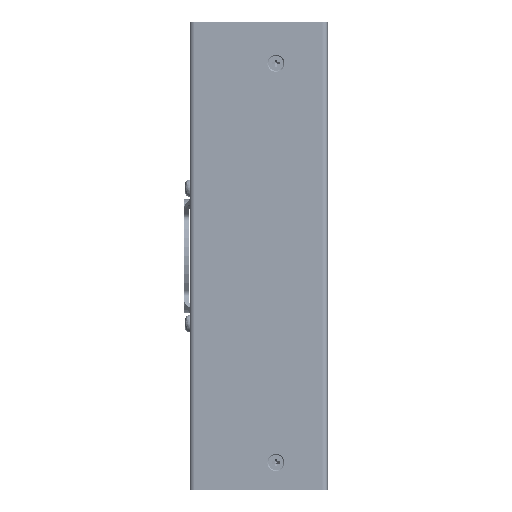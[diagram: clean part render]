
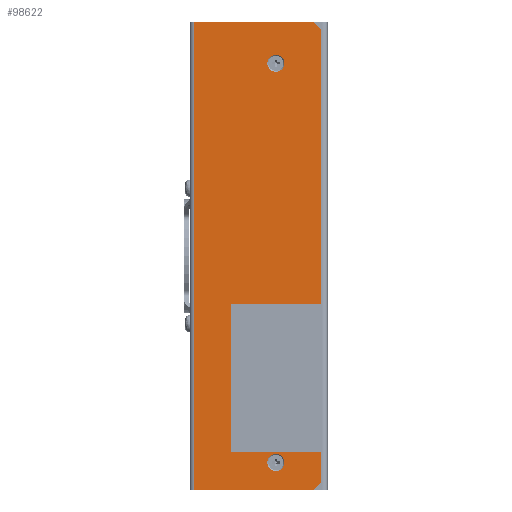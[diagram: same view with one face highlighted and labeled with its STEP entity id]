
A CAD part, left-side view. The second image highlights one B-rep face of the part: STEP entity #98622.
In plain terms, the highlighted planar face has unit normal (-1, 0, 0).
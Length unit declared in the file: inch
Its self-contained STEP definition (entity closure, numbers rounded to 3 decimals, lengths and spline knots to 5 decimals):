
#34725 = CARTESIAN_POINT ( 'NONE',  ( -1.663, -1.187, -6.27598 ) ) ;
#34732 = CARTESIAN_POINT ( 'NONE',  ( -1.663, -1.187, -6.52402 ) ) ;
#34810 = DIRECTION ( 'NONE',  ( 0., 0., 1. ) ) ;
#34811 = DIRECTION ( 'NONE',  ( -1., 0., 0. ) ) ;
#34812 = CARTESIAN_POINT ( 'NONE',  ( -1.663, -1.187, -0.6 ) ) ;
#34816 = CIRCLE ( 'NONE', #34865, 0.12402 ) ;
#34819 = CARTESIAN_POINT ( 'NONE',  ( -1.663, -1.187, -0.47598 ) ) ;
#34824 = CIRCLE ( 'NONE', #34834, 0.12402 ) ;
#34827 = CARTESIAN_POINT ( 'NONE',  ( -1.663, -1.187, -0.72402 ) ) ;
#34834 = AXIS2_PLACEMENT_3D ( 'NONE', #34812, #34811, #34810 ) ;
#34862 = DIRECTION ( 'NONE',  ( 0., 0., 1. ) ) ;
#34863 = DIRECTION ( 'NONE',  ( -1., 0., 0. ) ) ;
#34864 = CARTESIAN_POINT ( 'NONE',  ( -1.663, -1.187, -6.4 ) ) ;
#34865 = AXIS2_PLACEMENT_3D ( 'NONE', #34864, #34863, #34862 ) ;
#35606 = CARTESIAN_POINT ( 'NONE',  ( -1.663, -1.837, -6.25 ) ) ;
#35615 = CARTESIAN_POINT ( 'NONE',  ( -1.663, -1.837, -6.7 ) ) ;
#35645 = DIRECTION ( 'NONE',  ( 0., 0., -1. ) ) ;
#35646 = VECTOR ( 'NONE', #35645, 39.37008 ) ;
#35647 = CARTESIAN_POINT ( 'NONE',  ( -1.663, -1.837, -6.8 ) ) ;
#35648 = LINE ( 'NONE', #35647, #35646 ) ;
#35871 = DIRECTION ( 'NONE',  ( 0., -1., 0. ) ) ;
#35876 = CARTESIAN_POINT ( 'NONE',  ( -1.663, -0.001, 0. ) ) ;
#35899 = CARTESIAN_POINT ( 'NONE',  ( -1.663, -0.001, -6.8 ) ) ;
#35908 = FACE_BOUND ( 'NONE', #98756, .T. ) ;
#35909 = DIRECTION ( 'NONE',  ( -1., 0., 0. ) ) ;
#35913 = FACE_OUTER_BOUND ( 'NONE', #98748, .T. ) ;
#35919 = CARTESIAN_POINT ( 'NONE',  ( -1.663, -1.737, -6.8 ) ) ;
#35922 = FACE_BOUND ( 'NONE', #96404, .T. ) ;
#35931 = CARTESIAN_POINT ( 'NONE',  ( -1.663, 0., -6.8 ) ) ;
#35949 = DIRECTION ( 'NONE',  ( 0., 0., 1. ) ) ;
#35950 = DIRECTION ( 'NONE',  ( -1., 0., 0. ) ) ;
#35951 = CARTESIAN_POINT ( 'NONE',  ( -1.663, -1.187, -6.4 ) ) ;
#35955 = DIRECTION ( 'NONE',  ( 0., 1., 0. ) ) ;
#35956 = VECTOR ( 'NONE', #35955, 39.37008 ) ;
#35957 = CARTESIAN_POINT ( 'NONE',  ( -1.663, 0., -6.8 ) ) ;
#35958 = CIRCLE ( 'NONE', #35968, 0.12402 ) ;
#35962 = CARTESIAN_POINT ( 'NONE',  ( -1.663, -1.737, 0. ) ) ;
#35964 = LINE ( 'NONE', #35957, #35956 ) ;
#35968 = AXIS2_PLACEMENT_3D ( 'NONE', #35951, #35950, #35949 ) ;
#35969 = AXIS2_PLACEMENT_3D ( 'NONE', #35931, #35909, #35871 ) ;
#35973 = PLANE ( 'NONE',  #35969 ) ;
#35975 = DIRECTION ( 'NONE',  ( 0., -1., 0. ) ) ;
#35976 = CARTESIAN_POINT ( 'NONE',  ( -1.663, -1.837, 0. ) ) ;
#36008 = CARTESIAN_POINT ( 'NONE',  ( -1.663, -1.837, -0.1 ) ) ;
#36011 = VECTOR ( 'NONE', #36064, 39.37008 ) ;
#36012 = CARTESIAN_POINT ( 'NONE',  ( -1.663, -0.8685, -7.6685 ) ) ;
#36013 = LINE ( 'NONE', #36012, #36011 ) ;
#36032 = VECTOR ( 'NONE', #35975, 39.37008 ) ;
#36035 = CARTESIAN_POINT ( 'NONE',  ( -1.663, -0.001, -6.8 ) ) ;
#36036 = DIRECTION ( 'NONE',  ( 0., 0., -1. ) ) ;
#36039 = LINE ( 'NONE', #35976, #36032 ) ;
#36040 = VECTOR ( 'NONE', #36036, 39.37008 ) ;
#36041 = LINE ( 'NONE', #36035, #36040 ) ;
#36042 = CIRCLE ( 'NONE', #36050, 0.12402 ) ;
#36044 = DIRECTION ( 'NONE',  ( 0., 0., -1. ) ) ;
#36045 = VECTOR ( 'NONE', #36044, 39.37008 ) ;
#36046 = CARTESIAN_POINT ( 'NONE',  ( -1.663, -0.537, -6.25 ) ) ;
#36047 = LINE ( 'NONE', #36046, #36045 ) ;
#36048 = DIRECTION ( 'NONE',  ( -1., 0., 0. ) ) ;
#36049 = CARTESIAN_POINT ( 'NONE',  ( -1.663, -1.187, -0.6 ) ) ;
#36050 = AXIS2_PLACEMENT_3D ( 'NONE', #36049, #36048, #36111 ) ;
#36052 = DIRECTION ( 'NONE',  ( 0., -1., 0. ) ) ;
#36053 = VECTOR ( 'NONE', #36052, 39.37008 ) ;
#36054 = LINE ( 'NONE', #36104, #36103 ) ;
#36055 = CARTESIAN_POINT ( 'NONE',  ( -1.663, -1.837, -4.1 ) ) ;
#36056 = CARTESIAN_POINT ( 'NONE',  ( -1.663, -1.837, -6.25 ) ) ;
#36057 = LINE ( 'NONE', #36056, #36053 ) ;
#36058 = CARTESIAN_POINT ( 'NONE',  ( -1.663, -4.2685, -2.5315 ) ) ;
#36059 = LINE ( 'NONE', #36058, #36110 ) ;
#36060 = DIRECTION ( 'NONE',  ( 0., 1., 0. ) ) ;
#36061 = VECTOR ( 'NONE', #36060, 39.37008 ) ;
#36062 = CARTESIAN_POINT ( 'NONE',  ( -1.663, -1.837, -4.1 ) ) ;
#36063 = CARTESIAN_POINT ( 'NONE',  ( -1.663, -0.537, -4.1 ) ) ;
#36064 = DIRECTION ( 'NONE',  ( 0., -0.707, 0.707 ) ) ;
#36065 = CARTESIAN_POINT ( 'NONE',  ( -1.663, -0.537, -6.25 ) ) ;
#36067 = LINE ( 'NONE', #36062, #36061 ) ;
#36102 = DIRECTION ( 'NONE',  ( 0., 0., -1. ) ) ;
#36103 = VECTOR ( 'NONE', #36102, 39.37008 ) ;
#36104 = CARTESIAN_POINT ( 'NONE',  ( -1.663, -1.837, -6.8 ) ) ;
#36109 = DIRECTION ( 'NONE',  ( 0., 0.707, 0.707 ) ) ;
#36110 = VECTOR ( 'NONE', #36109, 39.37008 ) ;
#36111 = DIRECTION ( 'NONE',  ( 0., 0., 1. ) ) ;
#96404 = EDGE_LOOP ( 'NONE', ( #98733, #98745 ) ) ;
#97559 = VERTEX_POINT ( 'NONE', #34725 ) ;
#97595 = VERTEX_POINT ( 'NONE', #34732 ) ;
#97645 = VERTEX_POINT ( 'NONE', #34827 ) ;
#97655 = EDGE_CURVE ( 'NONE', #97645, #97656, #34824, .T. ) ;
#97656 = VERTEX_POINT ( 'NONE', #34819 ) ;
#97662 = EDGE_CURVE ( 'NONE', #97595, #97559, #34816, .T. ) ;
#98348 = VERTEX_POINT ( 'NONE', #35606 ) ;
#98350 = VERTEX_POINT ( 'NONE', #35615 ) ;
#98364 = EDGE_CURVE ( 'NONE', #98348, #98350, #35648, .T. ) ;
#98512 = ORIENTED_EDGE ( 'NONE', *, *, #97662, .F. ) ;
#98559 = VERTEX_POINT ( 'NONE', #35899 ) ;
#98587 = VERTEX_POINT ( 'NONE', #35876 ) ;
#98622 = ADVANCED_FACE ( 'NONE', ( #35908, #35922, #35913 ), #35973, .T. ) ;
#98626 = VERTEX_POINT ( 'NONE', #35919 ) ;
#98627 = EDGE_CURVE ( 'NONE', #98626, #98559, #35964, .T. ) ;
#98630 = VERTEX_POINT ( 'NONE', #35962 ) ;
#98633 = EDGE_CURVE ( 'NONE', #97559, #97595, #35958, .T. ) ;
#98676 = EDGE_CURVE ( 'NONE', #98587, #98630, #36039, .T. ) ;
#98682 = EDGE_CURVE ( 'NONE', #98587, #98559, #36041, .T. ) ;
#98709 = ORIENTED_EDGE ( 'NONE', *, *, #98364, .F. ) ;
#98711 = ORIENTED_EDGE ( 'NONE', *, *, #98682, .T. ) ;
#98713 = EDGE_CURVE ( 'NONE', #98626, #98350, #36013, .T. ) ;
#98714 = VERTEX_POINT ( 'NONE', #36065 ) ;
#98717 = EDGE_CURVE ( 'NONE', #98735, #98718, #36067, .T. ) ;
#98718 = VERTEX_POINT ( 'NONE', #36063 ) ;
#98719 = EDGE_CURVE ( 'NONE', #98714, #98348, #36057, .T. ) ;
#98721 = ORIENTED_EDGE ( 'NONE', *, *, #98719, .F. ) ;
#98722 = EDGE_CURVE ( 'NONE', #98718, #98714, #36047, .T. ) ;
#98724 = ORIENTED_EDGE ( 'NONE', *, *, #98717, .F. ) ;
#98733 = ORIENTED_EDGE ( 'NONE', *, *, #98737, .F. ) ;
#98735 = VERTEX_POINT ( 'NONE', #36055 ) ;
#98737 = EDGE_CURVE ( 'NONE', #97656, #97645, #36042, .T. ) ;
#98739 = ORIENTED_EDGE ( 'NONE', *, *, #98676, .F. ) ;
#98740 = ORIENTED_EDGE ( 'NONE', *, *, #98722, .F. ) ;
#98742 = EDGE_CURVE ( 'NONE', #98744, #98630, #36059, .T. ) ;
#98744 = VERTEX_POINT ( 'NONE', #36008 ) ;
#98745 = ORIENTED_EDGE ( 'NONE', *, *, #97655, .F. ) ;
#98747 = EDGE_CURVE ( 'NONE', #98744, #98735, #36054, .T. ) ;
#98748 = EDGE_LOOP ( 'NONE', ( #98750, #98754, #98739, #98711, #98752, #98755, #98709, #98721, #98740, #98724 ) ) ;
#98750 = ORIENTED_EDGE ( 'NONE', *, *, #98747, .F. ) ;
#98752 = ORIENTED_EDGE ( 'NONE', *, *, #98627, .F. ) ;
#98754 = ORIENTED_EDGE ( 'NONE', *, *, #98742, .T. ) ;
#98755 = ORIENTED_EDGE ( 'NONE', *, *, #98713, .T. ) ;
#98756 = EDGE_LOOP ( 'NONE', ( #98760, #98512 ) ) ;
#98760 = ORIENTED_EDGE ( 'NONE', *, *, #98633, .F. ) ;
